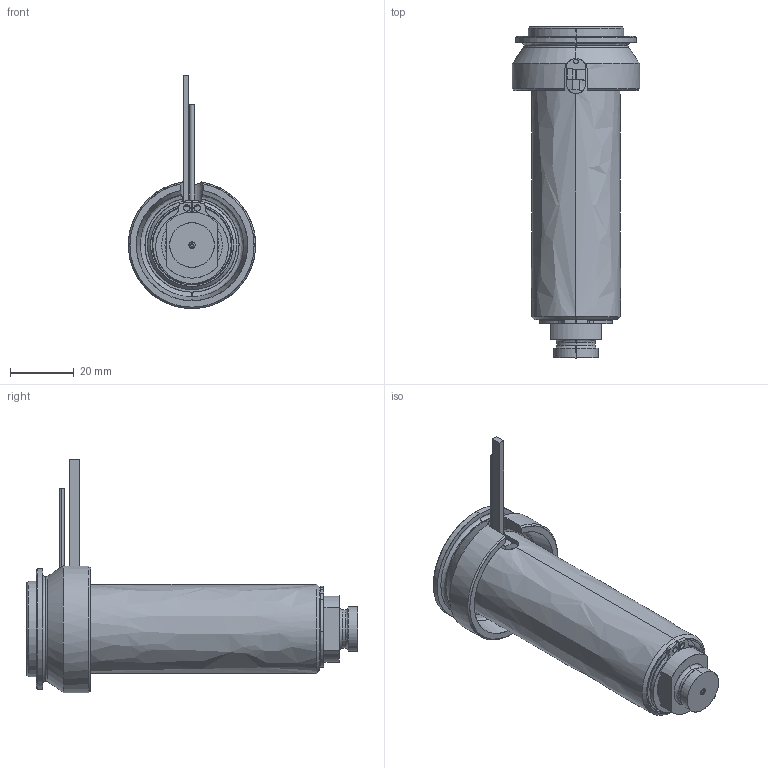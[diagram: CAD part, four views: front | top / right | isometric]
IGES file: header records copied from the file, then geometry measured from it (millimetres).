
Start section: SolidWorks IGES file using analytic representation for surfaces
Global section: file name: C:\Documents and Settings\ws-20\Desktop\TEM\UGEP4102-M-A-0 [Øf-0.88 P-0 ØC-10].IGS; native system: SolidWorks 2012; preprocessor: SolidWorks 2012; author: ws-20; date: 120426.085727; units: millimetre
Bounding box: 40 x 104.25 x 73.3 mm (x, y, z)
Surface area: 32723.3 mm2 (no closed solid volume)
Topology: 0 solids, 0 shells, 114 faces, 1913 edges, 1913 vertices
Faces by surface type: revolution 64, bspline 50
